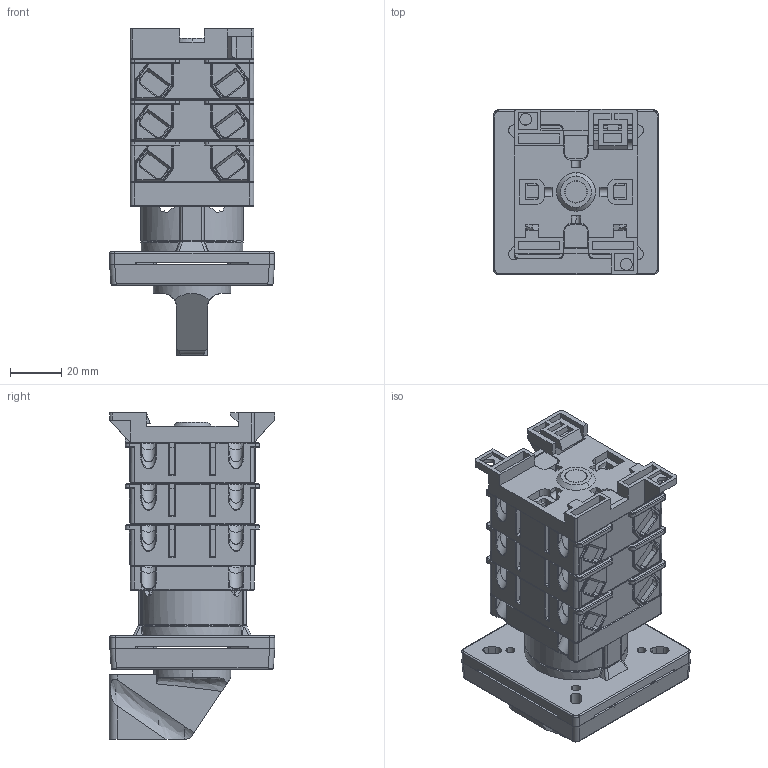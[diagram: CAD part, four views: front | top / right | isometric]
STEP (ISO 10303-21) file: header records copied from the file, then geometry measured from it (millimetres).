
FILE_DESCRIPTION (( 'STEP AP214' ), '1' );
FILE_NAME ('Ïåðåêëþ÷àòåëü 4G16,25-XXXX-U-S18-R114 3ê.STEP', '2022-12-02T13:07:07', ( '' ), ( '' ), 'SwSTEP 2.0', 'SolidWorks 2018', '' );
FILE_SCHEMA (( 'AUTOMOTIVE_DESIGN' ));
Length unit declared in the file: millimetre
Products named in the file (1): Ïåðåêëþ÷àòåëü 4G16,25-XXXX-U-S18-R114 3ê
Bounding box: 64 x 64.21 x 126.8 mm (x, y, z)
Volume: 196712.4 mm3; surface area: 103584.4 mm2
Topology: 14 solids, 38 shells, 4195 faces, 11071 edges, 7016 vertices
Faces by surface type: plane 2394, cylinder 1309, torus 198, cone 149, bspline 85, sphere 60
Entity records: 185788 total; most frequent: CARTESIAN_POINT 36857, ORIENTED_EDGE 22044, DIRECTION 20787, EDGE_CURVE 11022, VECTOR 7537, LINE 7537, VERTEX_POINT 7004, AXIS2_PLACEMENT_3D 6625
